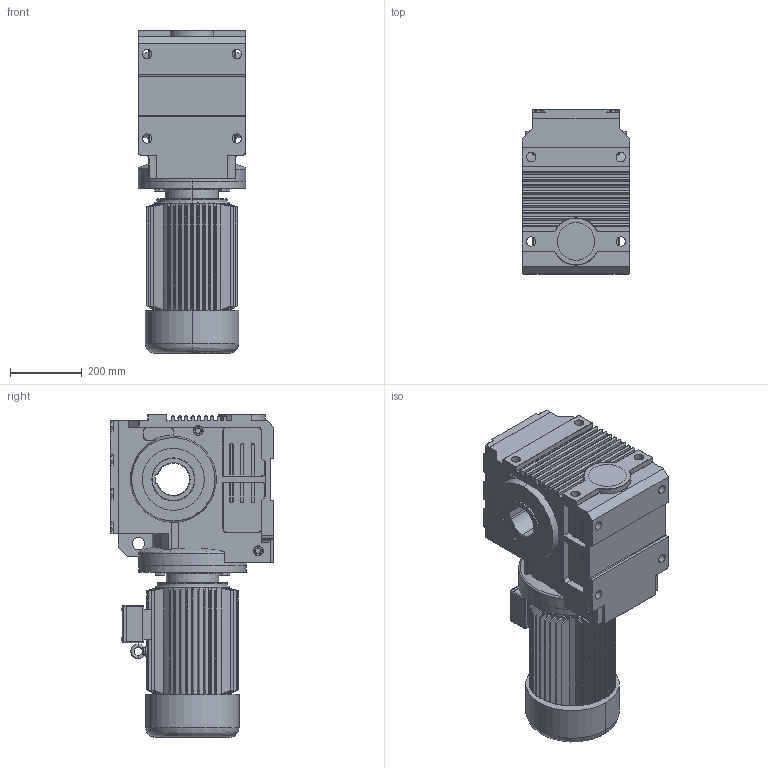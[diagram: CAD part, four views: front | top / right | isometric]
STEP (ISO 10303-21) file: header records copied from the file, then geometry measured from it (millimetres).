
FILE_DESCRIPTION (( 'STEP AP214' ), '1' );
FILE_NAME ('MSW97.step', '2020-06-27T03:58:12', ( '' ), ( '' ), 'SwSTEP 2.0', 'SolidWorks 2016', '' );
FILE_SCHEMA (( 'AUTOMOTIVE_DESIGN' ));
Length unit declared in the file: millimetre
Products named in the file (1): MSW97
Bounding box: 300 x 456.2 x 898 mm (x, y, z)
Volume: 63305102.3 mm3; surface area: 2216668.1 mm2
Topology: 3 solids, 3 shells, 1679 faces, 4123 edges, 2465 vertices
Faces by surface type: plane 621, cylinder 508, bspline 335, cone 215
Entity records: 75577 total; most frequent: CARTESIAN_POINT 20457, ORIENTED_EDGE 8152, DIRECTION 6950, EDGE_CURVE 4076, AXIS2_PLACEMENT_3D 2504, VERTEX_POINT 2465, LINE 1942, VECTOR 1942
